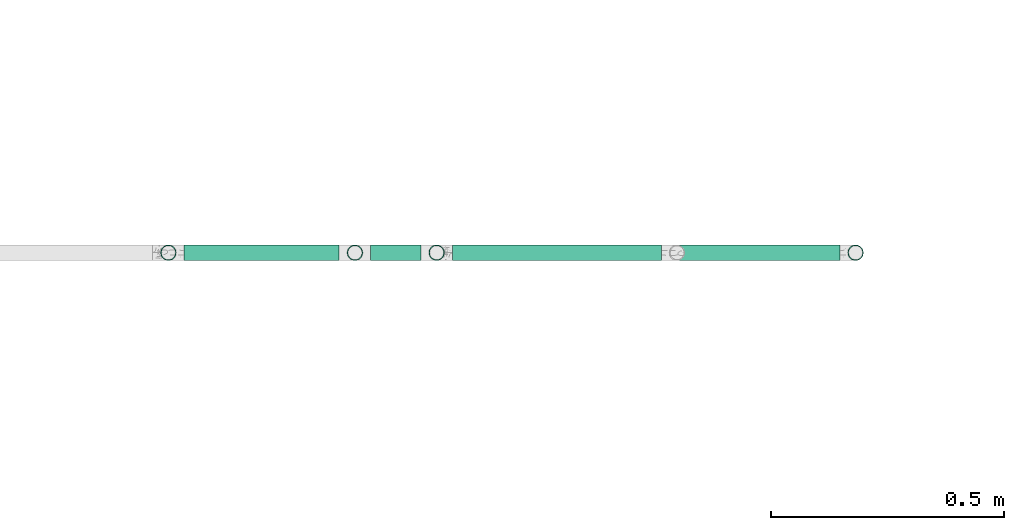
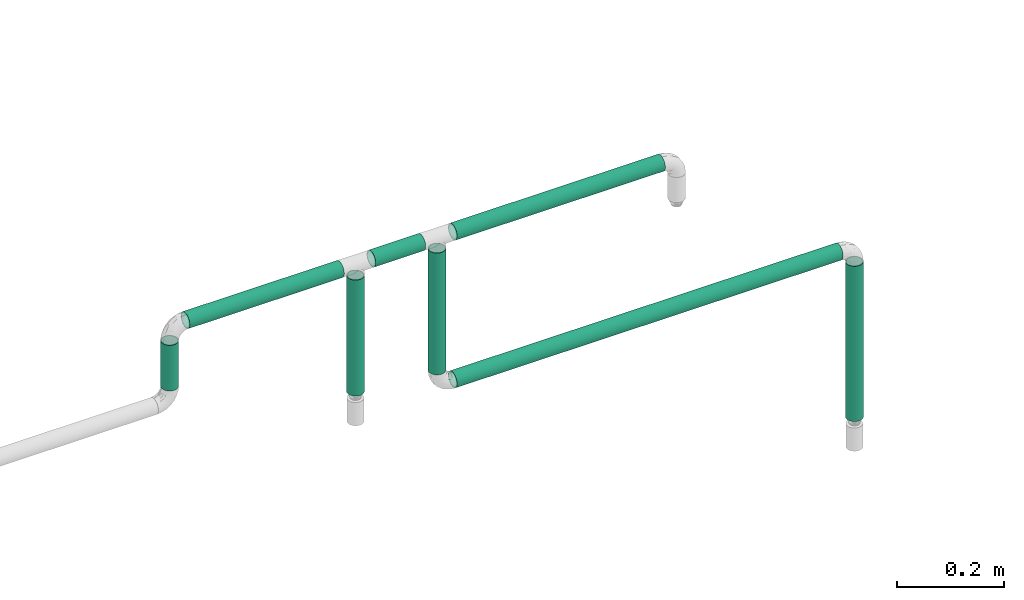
# One storey, part 11 of 45: 8 flow segments.
"""IFC2X3 building model written with IfcOpenShell, lengths in millimetres."""

from ifc_helpers import new_model, entity, si_unit, converted_unit, derived_unit, direction, frame, origin_with_axes, origin_2d_with_axis, place, context, subcontext, project, spatial, hollow_circle, extrude, source, transform, mapped, type_object, element, save


model = new_model("IFC2X3")

# Units and contexts
model_context = context("Model", 3, precision=0.01, world=frame((0.0, 4.29681676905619e-09, 0.0)), true_north=direction((4.01073788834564e-13, 1.0)))
plan_context = context("Plan", 3, precision=0.01, world=frame((0.0, 4.29681676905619e-09, 0.0)), true_north=direction((4.01073788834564e-13, 1.0)))
body_context = subcontext(model_context, "Body", "Model", "MODEL_VIEW")
ifc_project = project(units=[converted_unit("PLANEANGLEUNIT", "DEGREE", entity("IfcPositiveLengthMeasure", 0.0174532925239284), si_unit("PLANEANGLEUNIT", "RADIAN"), dimensions=[0, 0, 0, 0, 0, 0, 0]), si_unit("AREAUNIT", "SQUARE_METRE"), si_unit("LENGTHUNIT", "METRE", prefix="MILLI"), si_unit("MASSUNIT", "GRAM", prefix="KILO"), si_unit("POWERUNIT", "WATT"), si_unit("PRESSUREUNIT", "PASCAL", prefix="KILO"), si_unit("FORCEUNIT", "NEWTON", prefix="KILO"), si_unit("ELECTRICVOLTAGEUNIT", "VOLT"), si_unit("ELECTRICCURRENTUNIT", "AMPERE"), si_unit("THERMODYNAMICTEMPERATUREUNIT", "DEGREE_CELSIUS"), si_unit("TIMEUNIT", "SECOND"), si_unit("VOLUMEUNIT", "CUBIC_METRE"), derived_unit("LINEARVELOCITYUNIT", [(si_unit("LENGTHUNIT", "METRE"), 1), (si_unit("TIMEUNIT", "SECOND"), -1)]), derived_unit("VOLUMETRICFLOWRATEUNIT", [(si_unit("VOLUMEUNIT", "CUBIC_METRE"), 1), (si_unit("TIMEUNIT", "SECOND"), -1)]), derived_unit("THERMALTRANSMITTANCEUNIT", [(si_unit("POWERUNIT", "WATT"), 1), (si_unit("THERMODYNAMICTEMPERATUREUNIT", "KELVIN"), -1), (si_unit("AREAUNIT", "SQUARE_METRE"), -1)]), derived_unit("SOUNDPRESSUREUNIT", [(si_unit("PRESSUREUNIT", "PASCAL"), 1)])], contexts=[model_context, plan_context])

# Site, building, storey
site_placement = place(None, frame((0.0, -4.29681676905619e-09, 0.0), z_axis=(0.0, 0.0, 1.0), x_axis=(1.0, 0.0, 0.0)))
site = spatial("IfcSite", under=ifc_project, at=site_placement, CompositionType="ELEMENT")
building_placement = place(site_placement, frame((0.0, 4.29681676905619e-09, 0.0), z_axis=(0.0, 0.0, 1.0), x_axis=(1.0, 0.0, 0.0)))
building = spatial("IfcBuilding", under=site, at=building_placement, Name="mc-building", CompositionType="ELEMENT")
storey_placement = place(building_placement, frame((0.0, 0.0, 210200.0), z_axis=(0.0, 0.0, 1.0), x_axis=(1.0, 0.0, 0.0)))
storey = spatial("IfcBuildingStorey", under=building, at=storey_placement, Name="Nivå F - 0,7 m", CompositionType="ELEMENT", Elevation=210200.0)

# Flow segments
pipe_segment_type = type_object("IfcPipeSegmentType", Name="Stålrør normaltykke", PredefinedType="RIGIDSEGMENT")
shared_shape_1 = source(origin_with_axes(), body_context, "Body", "SweptSolid", [
    extrude(hollow_circle(Radius=16.9, WallThickness=2.0, at=origin_2d_with_axis()), frame((0.0, 0.0, 0.0), z_axis=(1.0, 0.0, 0.0), x_axis=(0.0, 1.0, 0.0)), (0.0, 0.0, 1.0), 104.1),
])
flow_segment_1_placement = place(storey_placement, frame((332126.35522, 466128.25463, 3178.79999999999), z_axis=(0.0, -1.0, 0.0), x_axis=(0.0, 0.0, 1.0)))
element("IfcFlowSegment", 1, at=flow_segment_1_placement, inside=storey, type_object=pipe_segment_type, Name="Stålrør normaltykke", context=body_context, shape_type="MappedRepresentation", body=[
    mapped(shared_shape_1, transform((0.0, 0.0, 0.0), scale=1.0)),
])
shared_shape_2 = source(origin_with_axes(), body_context, "Body", "SweptSolid", [
    extrude(hollow_circle(Radius=16.9, WallThickness=2.0, at=origin_2d_with_axis()), frame((0.0, 0.0, 0.0), z_axis=(1.0, 0.0, 0.0), x_axis=(0.0, 1.0, 0.0)), (0.0, 0.0, 1.0), 333.1),
])
flow_segment_2_placement = place(storey_placement, frame((332493.26484, 466128.25463, 3316.68979999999), z_axis=(0.0, 0.0, 1.0), x_axis=(-1.0, 0.0, 0.0)))
element("IfcFlowSegment", 2, at=flow_segment_2_placement, inside=storey, type_object=pipe_segment_type, Name="Stålrør normaltykke", context=body_context, shape_type="MappedRepresentation", body=[
    mapped(shared_shape_2, transform((0.0, 0.0, 0.0), scale=1.0)),
])
shared_shape_3 = source(origin_with_axes(), body_context, "Body", "SweptSolid", [
    extrude(hollow_circle(Radius=16.9, WallThickness=2.0, at=origin_2d_with_axis()), frame((0.0, 0.0, 0.0), z_axis=(1.0, 0.0, 0.0), x_axis=(0.0, 1.0, 0.0)), (0.0, 0.0, 1.0), 264.4),
])
flow_segment_3_placement = place(storey_placement, frame((332527.06484, 466128.25463, 3291.33979999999), z_axis=(0.0, -1.0, 0.0), x_axis=(0.0, 0.0, -1.0)))
element("IfcFlowSegment", 3, at=flow_segment_3_placement, inside=storey, type_object=pipe_segment_type, Name="Stålrør normaltykke", context=body_context, shape_type="MappedRepresentation", body=[
    mapped(shared_shape_3, transform((0.0, 0.0, 0.0), scale=1.0)),
])
shared_shape_4 = source(origin_with_axes(), body_context, "Body", "SweptSolid", [
    extrude(hollow_circle(Radius=16.9, WallThickness=2.0, at=origin_2d_with_axis()), frame((0.0, 0.0, 0.0), z_axis=(1.0, 0.0, 0.0), x_axis=(0.0, 1.0, 0.0)), (0.0, 0.0, 1.0), 107.9),
])
flow_segment_4_placement = place(storey_placement, frame((332668.79811, 466128.25463, 3316.68979999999), z_axis=(0.0, 0.0, 1.0), x_axis=(-1.0, 0.0, 0.0)))
element("IfcFlowSegment", 4, at=flow_segment_4_placement, inside=storey, type_object=pipe_segment_type, Name="Stålrør normaltykke", context=body_context, shape_type="MappedRepresentation", body=[
    mapped(shared_shape_4, transform((0.0, 0.0, 0.0), scale=1.0)),
])
shared_shape_5 = source(origin_with_axes(), body_context, "Body", "SweptSolid", [
    extrude(hollow_circle(Radius=16.9, WallThickness=2.0, at=origin_2d_with_axis()), frame((0.0, 0.0, 0.0), z_axis=(1.0, 0.0, 0.0), x_axis=(0.0, 1.0, 0.0)), (0.0, 0.0, 1.0), 353.8),
])
flow_segment_5_placement = place(storey_placement, frame((333602.59811, 466128.25463, 2592.44545999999), z_axis=(0.0, -1.0, 0.0), x_axis=(0.0, 0.0, 1.0)))
element("IfcFlowSegment", 5, at=flow_segment_5_placement, inside=storey, type_object=pipe_segment_type, Name="Stålrør normaltykke", context=body_context, shape_type="MappedRepresentation", body=[
    mapped(shared_shape_5, transform((0.0, 0.0, 0.0), scale=1.0)),
])
shared_shape_6 = source(origin_with_axes(), body_context, "Body", "SweptSolid", [
    extrude(hollow_circle(Radius=16.9, WallThickness=2.0, at=origin_2d_with_axis()), frame((0.0, 0.0, 0.0), z_axis=(1.0, 0.0, 0.0), x_axis=(0.0, 1.0, 0.0)), (0.0, 0.0, 1.0), 832.4),
])
flow_segment_6_placement = place(storey_placement, frame((333568.79811, 466128.25463, 2980.04545999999), z_axis=(0.0, 0.0, 1.0), x_axis=(-1.0, 0.0, 0.0)))
element("IfcFlowSegment", 6, at=flow_segment_6_placement, inside=storey, type_object=pipe_segment_type, Name="Stålrør normaltykke", context=body_context, shape_type="MappedRepresentation", body=[
    mapped(shared_shape_6, transform((0.0, 0.0, 0.0), scale=1.0)),
])
shared_shape_7 = source(origin_with_axes(), body_context, "Body", "SweptSolid", [
    extrude(hollow_circle(Radius=16.9, WallThickness=2.0, at=origin_2d_with_axis()), frame((0.0, 0.0, 0.0), z_axis=(1.0, 0.0, 0.0), x_axis=(0.0, 1.0, 0.0)), (0.0, 0.0, 1.0), 277.5),
])
flow_segment_7_placement = place(storey_placement, frame((332702.59811, 466128.25463, 3291.33979999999), z_axis=(0.0, -1.0, 0.0), x_axis=(0.0, 0.0, -1.0)))
element("IfcFlowSegment", 7, at=flow_segment_7_placement, inside=storey, type_object=pipe_segment_type, Name="Stålrør normaltykke", context=body_context, shape_type="MappedRepresentation", body=[
    mapped(shared_shape_7, transform((0.0, 0.0, 0.0), scale=1.0)),
])
shared_shape_8 = source(origin_with_axes(), body_context, "Body", "SweptSolid", [
    extrude(hollow_circle(Radius=16.9, WallThickness=2.0, at=origin_2d_with_axis()), frame((0.0, 0.0, 0.0), z_axis=(1.0, 0.0, 0.0), x_axis=(0.0, 1.0, 0.0)), (0.0, 0.0, 1.0), 449.0),
])
flow_segment_8_placement = place(storey_placement, frame((333185.37326, 466128.25463, 3316.68979999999), z_axis=(0.0, 0.0, 1.0), x_axis=(-1.0, 0.0, 0.0)))
element("IfcFlowSegment", 8, at=flow_segment_8_placement, inside=storey, type_object=pipe_segment_type, Name="Stålrør normaltykke", context=body_context, shape_type="MappedRepresentation", body=[
    mapped(shared_shape_8, transform((0.0, 0.0, 0.0), scale=1.0)),
])

save(model, "model.ifc")
